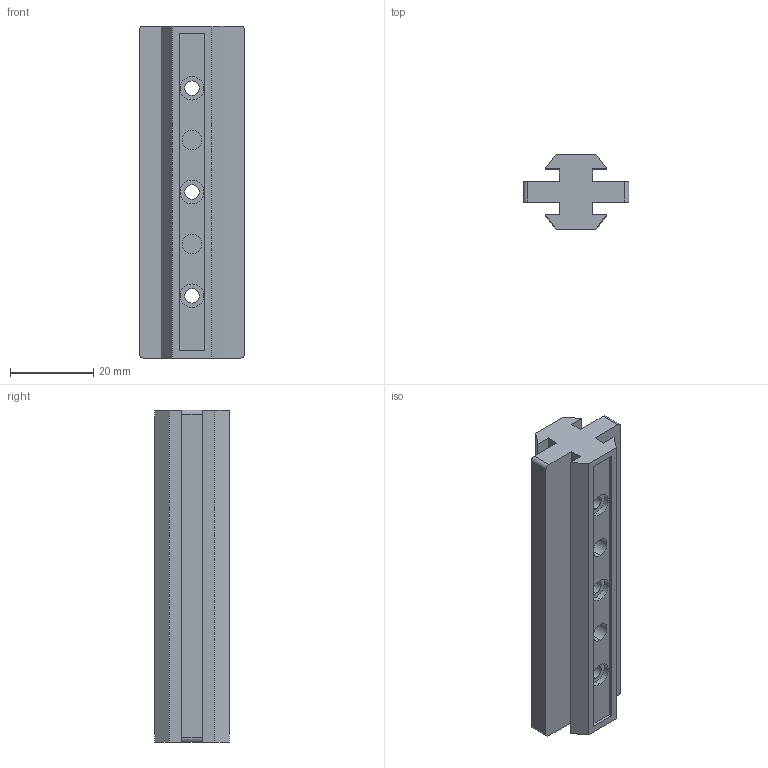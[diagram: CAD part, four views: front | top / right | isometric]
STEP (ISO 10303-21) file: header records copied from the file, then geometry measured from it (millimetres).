
FILE_DESCRIPTION (( 'STEP AP214' ), '1' );
FILE_NAME ('395.1000A.01.STEP', '2023-01-30T05:09:09', ( '' ), ( '' ), 'SwSTEP 2.0', 'SolidWorks 2020', '' );
FILE_SCHEMA (( 'AUTOMOTIVE_DESIGN' ));
Length unit declared in the file: millimetre
Products named in the file (1): 395.1000A.01
Bounding box: 25.5 x 18 x 80 mm (x, y, z)
Volume: 19008.5 mm3; surface area: 10366.3 mm2
Topology: 1 solids, 1 shells, 66 faces, 162 edges, 108 vertices
Faces by surface type: plane 40, cylinder 26
Entity records: 2004 total; most frequent: DIRECTION 348, CARTESIAN_POINT 337, ORIENTED_EDGE 324, EDGE_CURVE 162, AXIS2_PLACEMENT_3D 119, VECTOR 110, LINE 110, VERTEX_POINT 108
